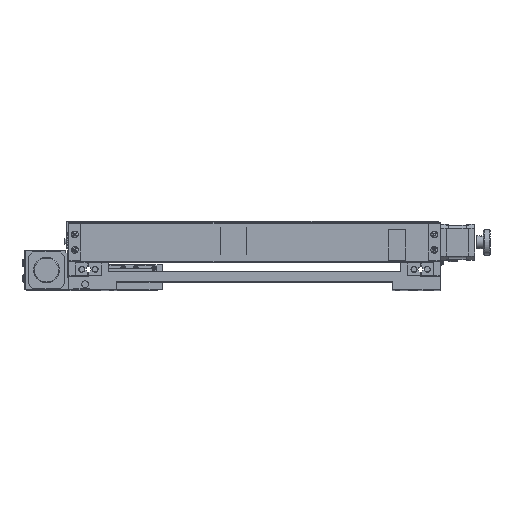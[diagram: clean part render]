
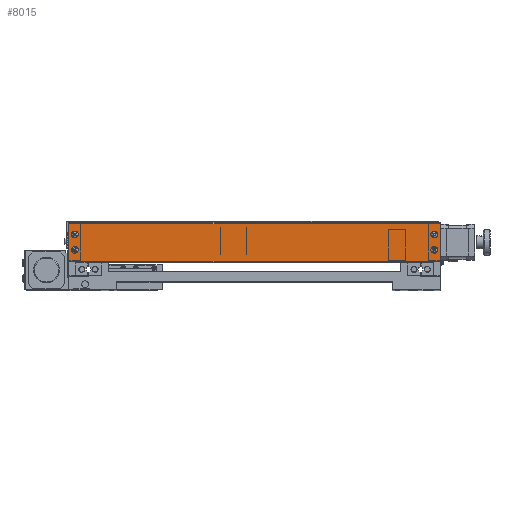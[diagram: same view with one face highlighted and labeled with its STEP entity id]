
A CAD part, top view. The second image highlights one B-rep face of the part: STEP entity #8015.
In plain terms, the highlighted planar face has unit normal (0, 0, 1).
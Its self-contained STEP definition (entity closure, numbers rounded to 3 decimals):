
#126 = AXIS2_PLACEMENT_3D ( 'NONE', #51799, #16398, #57744 ) ;
#788 = DIRECTION ( 'NONE',  ( 0., 0., 1. ) ) ;
#3119 = CARTESIAN_POINT ( 'NONE',  ( -210., 33., 313.982 ) ) ;
#3632 = DIRECTION ( 'NONE',  ( 0., -1., 0. ) ) ;
#3748 = CARTESIAN_POINT ( 'NONE',  ( 210., 15., 313.982 ) ) ;
#4086 = VERTEX_POINT ( 'NONE', #42738 ) ;
#4923 = DIRECTION ( 'NONE',  ( 0., 0., 1. ) ) ;
#6707 = CARTESIAN_POINT ( 'NONE',  ( 210., 33., 313.982 ) ) ;
#7319 = ORIENTED_EDGE ( 'NONE', *, *, #71287, .T. ) ;
#7753 = AXIS2_PLACEMENT_3D ( 'NONE', #36170, #788, #42126 ) ;
#7758 = CARTESIAN_POINT ( 'NONE',  ( 217., 47.1, 313.982 ) ) ;
#7849 = EDGE_CURVE ( 'NONE', #4086, #42465, #74291, .T. ) ;
#7983 = EDGE_CURVE ( 'NONE', #12210, #20878, #33610, .T. ) ;
#8015 = ADVANCED_FACE ( 'NONE', ( #14156, #61398, #29933, #75197, #59556 ), #54304, .F. ) ;
#8260 = CARTESIAN_POINT ( 'NONE',  ( 217., 2.1, 313.982 ) ) ;
#9021 = CARTESIAN_POINT ( 'NONE',  ( -217., 45.6, 313.982 ) ) ;
#9057 = DIRECTION ( 'NONE',  ( 0., -1., 0. ) ) ;
#9683 = DIRECTION ( 'NONE',  ( 0., -1., 0. ) ) ;
#9743 = AXIS2_PLACEMENT_3D ( 'NONE', #3119, #44468, #9057 ) ;
#9791 = EDGE_CURVE ( 'NONE', #16371, #57243, #26937, .T. ) ;
#10487 = LINE ( 'NONE', #8260, #40059 ) ;
#12210 = VERTEX_POINT ( 'NONE', #24703 ) ;
#12637 = CARTESIAN_POINT ( 'NONE',  ( 210., 15., 313.982 ) ) ;
#12648 = DIRECTION ( 'NONE',  ( 0., -1., 0. ) ) ;
#12726 = EDGE_CURVE ( 'NONE', #28437, #42619, #47805, .T. ) ;
#13960 = ORIENTED_EDGE ( 'NONE', *, *, #7983, .F. ) ;
#14156 = FACE_BOUND ( 'NONE', #17216, .T. ) ;
#14461 = LINE ( 'NONE', #7758, #75482 ) ;
#15617 = AXIS2_PLACEMENT_3D ( 'NONE', #40319, #4923, #46270 ) ;
#16371 = VERTEX_POINT ( 'NONE', #61057 ) ;
#16398 = DIRECTION ( 'NONE',  ( 0., 0., 1. ) ) ;
#17216 = EDGE_LOOP ( 'NONE', ( #13960, #57316 ) ) ;
#18630 = DIRECTION ( 'NONE',  ( 0., -1., 0. ) ) ;
#19891 = ORIENTED_EDGE ( 'NONE', *, *, #48762, .F. ) ;
#20079 = AXIS2_PLACEMENT_3D ( 'NONE', #74412, #38991, #3632 ) ;
#20377 = CARTESIAN_POINT ( 'NONE',  ( 217., 45.6, 313.982 ) ) ;
#20872 = EDGE_LOOP ( 'NONE', ( #59511, #19891 ) ) ;
#20878 = VERTEX_POINT ( 'NONE', #54937 ) ;
#21355 = CIRCLE ( 'NONE', #20079, 2.5 ) ;
#22506 = CARTESIAN_POINT ( 'NONE',  ( 217., 45.6, 313.982 ) ) ;
#22548 = VECTOR ( 'NONE', #46231, 1000. ) ;
#22911 = EDGE_CURVE ( 'NONE', #30485, #35987, #14461, .T. ) ;
#23190 = ORIENTED_EDGE ( 'NONE', *, *, #54010, .F. ) ;
#23879 = CIRCLE ( 'NONE', #64032, 2.5 ) ;
#24095 = CARTESIAN_POINT ( 'NONE',  ( 217., 2.1, 313.982 ) ) ;
#24418 = LINE ( 'NONE', #22506, #22548 ) ;
#24703 = CARTESIAN_POINT ( 'NONE',  ( 210., 12.5, 313.982 ) ) ;
#25105 = DIRECTION ( 'NONE',  ( 0., 1., 0. ) ) ;
#25195 = CARTESIAN_POINT ( 'NONE',  ( -210., 35.5, 313.982 ) ) ;
#25913 = DIRECTION ( 'NONE',  ( 0., -1., 0. ) ) ;
#26496 = EDGE_LOOP ( 'NONE', ( #69074, #39584, #7319, #23190 ) ) ;
#26937 = CIRCLE ( 'NONE', #7753, 2.5 ) ;
#27591 = ORIENTED_EDGE ( 'NONE', *, *, #12726, .F. ) ;
#28437 = VERTEX_POINT ( 'NONE', #60164 ) ;
#29933 = FACE_BOUND ( 'NONE', #34058, .T. ) ;
#29998 = AXIS2_PLACEMENT_3D ( 'NONE', #48597, #60519, #25105 ) ;
#30485 = VERTEX_POINT ( 'NONE', #20377 ) ;
#31490 = CIRCLE ( 'NONE', #9743, 2.5 ) ;
#32898 = DIRECTION ( 'NONE',  ( 0., -1., 0. ) ) ;
#33610 = CIRCLE ( 'NONE', #67122, 2.5 ) ;
#34058 = EDGE_LOOP ( 'NONE', ( #64886, #76672 ) ) ;
#35987 = VERTEX_POINT ( 'NONE', #24095 ) ;
#36170 = CARTESIAN_POINT ( 'NONE',  ( -210., 15., 313.982 ) ) ;
#37686 = DIRECTION ( 'NONE',  ( -1., 0., 0. ) ) ;
#38991 = DIRECTION ( 'NONE',  ( 0., 0., 1. ) ) ;
#39044 = CARTESIAN_POINT ( 'NONE',  ( -217., 47.1, 313.982 ) ) ;
#39584 = ORIENTED_EDGE ( 'NONE', *, *, #46273, .T. ) ;
#40059 = VECTOR ( 'NONE', #37686, 1000. ) ;
#40319 = CARTESIAN_POINT ( 'NONE',  ( -210., 33., 313.982 ) ) ;
#42126 = DIRECTION ( 'NONE',  ( 0., -1., 0. ) ) ;
#42465 = VERTEX_POINT ( 'NONE', #25195 ) ;
#42619 = VERTEX_POINT ( 'NONE', #74158 ) ;
#42738 = CARTESIAN_POINT ( 'NONE',  ( -210., 30.5, 313.982 ) ) ;
#44468 = DIRECTION ( 'NONE',  ( 0., 0., 1. ) ) ;
#45076 = DIRECTION ( 'NONE',  ( 0., 0., 1. ) ) ;
#46231 = DIRECTION ( 'NONE',  ( -1., 0., 0. ) ) ;
#46270 = DIRECTION ( 'NONE',  ( 0., -1., 0. ) ) ;
#46273 = EDGE_CURVE ( 'NONE', #30485, #75462, #24418, .T. ) ;
#46632 = AXIS2_PLACEMENT_3D ( 'NONE', #6707, #48082, #12648 ) ;
#47805 = CIRCLE ( 'NONE', #46632, 2.5 ) ;
#48082 = DIRECTION ( 'NONE',  ( 0., 0., 1. ) ) ;
#48234 = ORIENTED_EDGE ( 'NONE', *, *, #53618, .F. ) ;
#48477 = CIRCLE ( 'NONE', #126, 2.5 ) ;
#48597 = CARTESIAN_POINT ( 'NONE',  ( 217., 47.1, 313.982 ) ) ;
#48762 = EDGE_CURVE ( 'NONE', #42465, #4086, #31490, .T. ) ;
#51799 = CARTESIAN_POINT ( 'NONE',  ( 210., 33., 313.982 ) ) ;
#53618 = EDGE_CURVE ( 'NONE', #42619, #28437, #48477, .T. ) ;
#54010 = EDGE_CURVE ( 'NONE', #35987, #61861, #10487, .T. ) ;
#54042 = DIRECTION ( 'NONE',  ( 0., 0., 1. ) ) ;
#54304 = PLANE ( 'NONE',  #29998 ) ;
#54937 = CARTESIAN_POINT ( 'NONE',  ( 210., 17.5, 313.982 ) ) ;
#55674 = EDGE_CURVE ( 'NONE', #57243, #16371, #21355, .T. ) ;
#56747 = CARTESIAN_POINT ( 'NONE',  ( -217., 2.1, 313.982 ) ) ;
#56907 = CARTESIAN_POINT ( 'NONE',  ( -210., 17.5, 313.982 ) ) ;
#57243 = VERTEX_POINT ( 'NONE', #56907 ) ;
#57316 = ORIENTED_EDGE ( 'NONE', *, *, #61864, .F. ) ;
#57744 = DIRECTION ( 'NONE',  ( 0., -1., 0. ) ) ;
#59511 = ORIENTED_EDGE ( 'NONE', *, *, #7849, .F. ) ;
#59556 = FACE_OUTER_BOUND ( 'NONE', #26496, .T. ) ;
#59832 = LINE ( 'NONE', #39044, #73588 ) ;
#60164 = CARTESIAN_POINT ( 'NONE',  ( 210., 30.5, 313.982 ) ) ;
#60519 = DIRECTION ( 'NONE',  ( 0., 0., -1. ) ) ;
#61057 = CARTESIAN_POINT ( 'NONE',  ( -210., 12.5, 313.982 ) ) ;
#61398 = FACE_BOUND ( 'NONE', #62566, .T. ) ;
#61861 = VERTEX_POINT ( 'NONE', #56747 ) ;
#61864 = EDGE_CURVE ( 'NONE', #20878, #12210, #23879, .T. ) ;
#62566 = EDGE_LOOP ( 'NONE', ( #27591, #48234 ) ) ;
#64032 = AXIS2_PLACEMENT_3D ( 'NONE', #3748, #45076, #9683 ) ;
#64886 = ORIENTED_EDGE ( 'NONE', *, *, #9791, .F. ) ;
#67122 = AXIS2_PLACEMENT_3D ( 'NONE', #12637, #54042, #18630 ) ;
#69074 = ORIENTED_EDGE ( 'NONE', *, *, #22911, .F. ) ;
#71287 = EDGE_CURVE ( 'NONE', #75462, #61861, #59832, .T. ) ;
#73588 = VECTOR ( 'NONE', #32898, 1000. ) ;
#74158 = CARTESIAN_POINT ( 'NONE',  ( 210., 35.5, 313.982 ) ) ;
#74291 = CIRCLE ( 'NONE', #15617, 2.5 ) ;
#74412 = CARTESIAN_POINT ( 'NONE',  ( -210., 15., 313.982 ) ) ;
#75197 = FACE_BOUND ( 'NONE', #20872, .T. ) ;
#75462 = VERTEX_POINT ( 'NONE', #9021 ) ;
#75482 = VECTOR ( 'NONE', #25913, 1000. ) ;
#76672 = ORIENTED_EDGE ( 'NONE', *, *, #55674, .F. ) ;
